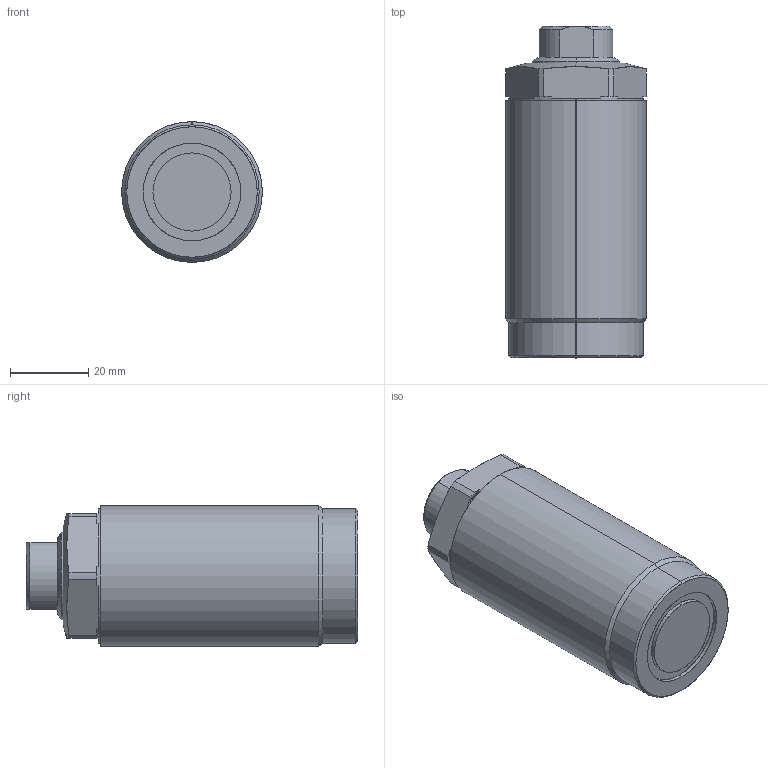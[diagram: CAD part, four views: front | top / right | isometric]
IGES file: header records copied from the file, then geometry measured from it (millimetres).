
Start section: SolidWorks IGES file using analytic representation for surfaces
Global section: file name: D:\karuppas\Clasp\3D model\Thread body cylinder\T03C-M364-L threaded pusher\T03C-M364-L threaded pusher.IGS; native system: SolidWorks 2017; preprocessor: SolidWorks 2017; author: pc; date: 220709.231133; units: millimetre
Bounding box: 36 x 85 x 36 mm (x, y, z)
Surface area: 14493.6 mm2 (no closed solid volume)
Topology: 0 solids, 0 shells, 261 faces, 3091 edges, 3089 vertices
Faces by surface type: bspline 221, revolution 40
